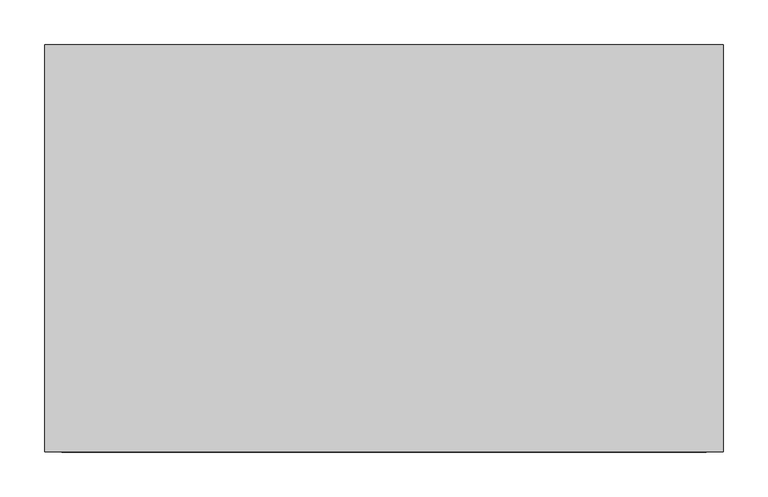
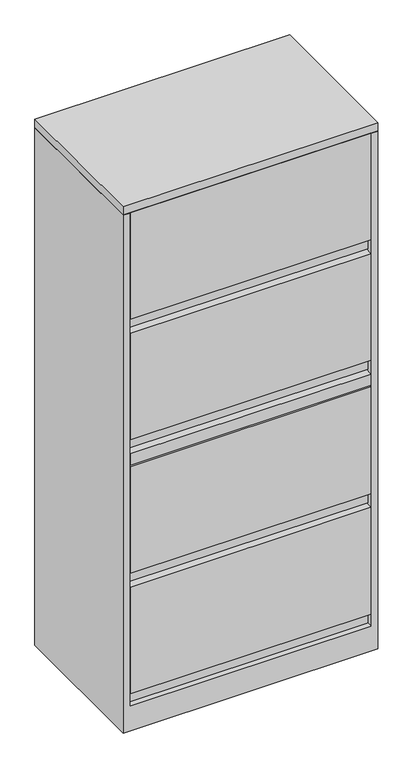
"""IFC4 building model written with IfcOpenShell, lengths in millimetres: furniture geometry, Steelcase - 900 Series - Storage - Lateral File With Roll Out Shelf - Flush Steel : 65 1/2H x 30W - 1 1⁄2H Filler."""

from ifc_helpers import new_model, si_unit, frame, origin, place, context, project, spatial, polyline, outline, extrude, faceted_brep, source, transform, mapped, element, save


def furniture_ed21047d(model_context):
    return source(origin(), model_context, "Body", "SolidModel", [
        extrude(outline(polyline([(-439.6742224, 1296.1620299), (-457.2, 1300.531676), (-457.2, 1637.8935942), (-431.800255, 1637.8935942), (-431.800255, 1261.6179926), (-439.6742224, 1261.6179926), (-439.6742224, 1296.1620299)])), frame((20.8289612, 0.0, 0.0), z_axis=(1.0, 0.0, 0.0), x_axis=(0.0, 1.0, 0.0)), (0.0, 0.0, 1.0), 720.3432404),
        extrude(outline(polyline([(-439.6742224, 493.522034), (-457.2, 497.89168), (-457.2, 835.2535983), (-431.800255, 835.2535983), (-431.800255, 458.9779967), (-439.6742224, 458.9779967), (-439.6742224, 493.522034)])), frame((20.8289612, 0.0, 0.0), z_axis=(1.0, 0.0, 0.0), x_axis=(0.0, 1.0, 0.0)), (0.0, 0.0, 1.0), 720.3432404),
        extrude(outline(polyline([(-439.6742224, 112.5220364), (-457.2, 116.8916825), (-457.2, 454.2536007), (-431.800255, 454.2536007), (-431.800255, 77.9779983), (-439.6742224, 77.9779983), (-439.6742224, 112.5220364)])), frame((20.8289612, 0.0, 0.0), z_axis=(1.0, 0.0, 0.0), x_axis=(0.0, 1.0, 0.0)), (0.0, 0.0, 1.0), 720.3432404),
        extrude(outline(polyline([(-439.6742224, 915.162034), (-457.2, 919.53168), (-457.2, 1256.8935983), (-431.800255, 1256.8935983), (-431.800255, 880.6179942), (-439.6742224, 880.6179942), (-439.6742224, 915.162034)])), frame((20.8289612, 0.0, 0.0), z_axis=(1.0, 0.0, 0.0), x_axis=(0.0, 1.0, 0.0)), (0.0, 0.0, 1.0), 720.3432404),
        extrude(outline(polyline([(741.1722015, -457.2), (20.8289612, -457.2), (20.8289612, -431.800255), (741.1722015, -431.800255), (741.1722015, -457.2)])), frame((0.0, 0.0, 839.9779983), z_axis=(0.0, 0.0, 1.0), x_axis=(1.0, 0.0, 0.0)), (0.0, 0.0, 1.0), 35.9156),
        faceted_brep([(742.6960184, -25.2721219, 1636.776), (742.6960184, -457.2, 1636.776), (762.0, -457.2, 1636.776), (762.0, 0.0, 1636.776), (0.0, 0.0, 1636.776), (0.0, -457.2, 1636.776), (19.3039998, -457.2, 1636.776), (19.3039998, -25.2721219, 1636.776), (0.0, -457.2, 0.0), (0.0, 0.0, 0.0), (762.0, 0.0, 0.0), (762.0, -457.2, 0.0), (742.6960184, -25.2721219, 406.7048), (742.6960184, -431.800255, 406.7048), (742.6960184, -431.800255, 381.254), (742.6960184, -25.2721219, 381.254), (742.6960184, -25.2721219, 103.3780013), (742.6960184, -430.275847, 103.3780013), (742.6960184, -430.275847, 77.9779983), (742.6960184, -457.2, 77.9779983), (19.3039998, -457.2, 77.9779983), (19.3039998, -430.275847, 77.9779983), (19.3039998, -430.275847, 103.3780013), (19.3039998, -25.2721219, 103.3780013), (19.3039998, -25.2721219, 381.254), (19.3039998, -431.800255, 381.254), (19.3039998, -431.800255, 406.7048), (19.3039998, -25.2721219, 406.7048)], [[[0, 1, 2, 3, 4, 5, 6, 7]], [[8, 9, 10, 11]], [[1, 0, 12, 13, 14, 15, 16, 17, 18, 19]], [[2, 1, 19, 20, 6, 5, 8, 11]], [[3, 2, 11, 10]], [[4, 3, 10, 9]], [[5, 4, 9, 8]], [[7, 6, 20, 21, 22, 23, 24, 25, 26, 27]], [[0, 7, 27, 12]], [[16, 15, 24, 23]], [[18, 21, 20, 19]], [[22, 17, 16, 23]], [[21, 18, 17, 22]], [[26, 13, 12, 27]], [[13, 26, 25, 14]], [[14, 25, 24, 15]]]),
        faceted_brep([(762.0, 0.0, 1663.7), (0.0, 0.0, 1663.7), (0.0, -457.2, 1663.7), (762.0, -457.2, 1663.7), (762.0, 0.0, 1638.2999516), (762.0, -457.2, 1638.2999516), (0.0, -457.2, 1638.2999516), (0.0, 0.0, 1638.2999516), (742.6960184, -25.2721219, 1638.2999516), (20.8289612, -25.2721219, 1638.2999516), (20.8289612, -415.9241219, 1638.2999516), (742.6960184, -415.9241219, 1638.2999516), (742.6960184, -25.2721219, 1636.776), (742.6960184, -415.9241219, 1636.776), (20.8289612, -415.9241219, 1636.776), (20.8289612, -25.2721219, 1636.776)], [[[0, 1, 2, 3]], [[4, 5, 6, 7], [8, 9, 10, 11]], [[1, 0, 4, 7]], [[2, 1, 7, 6]], [[3, 2, 6, 5]], [[0, 3, 5, 4]], [[12, 13, 14, 15]], [[12, 15, 9, 8]], [[15, 14, 10, 9]], [[14, 13, 11, 10]], [[13, 12, 8, 11]]]),
    ])


if __name__ == "__main__":
    model = new_model("IFC4")
    model_context = context("Model", 3, world=origin())
    ifc_project = project(units=[si_unit("LENGTHUNIT", "METRE", prefix="MILLI")], contexts=[model_context])
    site = spatial("IfcSite", under=ifc_project)
    building = spatial("IfcBuilding", under=site)
    placement = place(None, origin())
    furniture_shape = furniture_ed21047d(model_context)
    element("IfcFurniture", 1, ObjectType="Steelcase - 900 Series - Storage - Lateral File With Roll Out Shelf - Flush Steel : 65 1/2H x 30W - 1 1⁄2H Filler", at=placement, inside=building, context=model_context, shape_type="MappedRepresentation", body=[
        mapped(furniture_shape, transform((0.0, 0.0, 0.0), x_axis=(1.0, 0.0, 0.0), y_axis=(0.0, 1.0, 0.0), z_axis=(0.0, 0.0, 1.0))),
    ])
    save(model, "model.ifc")
